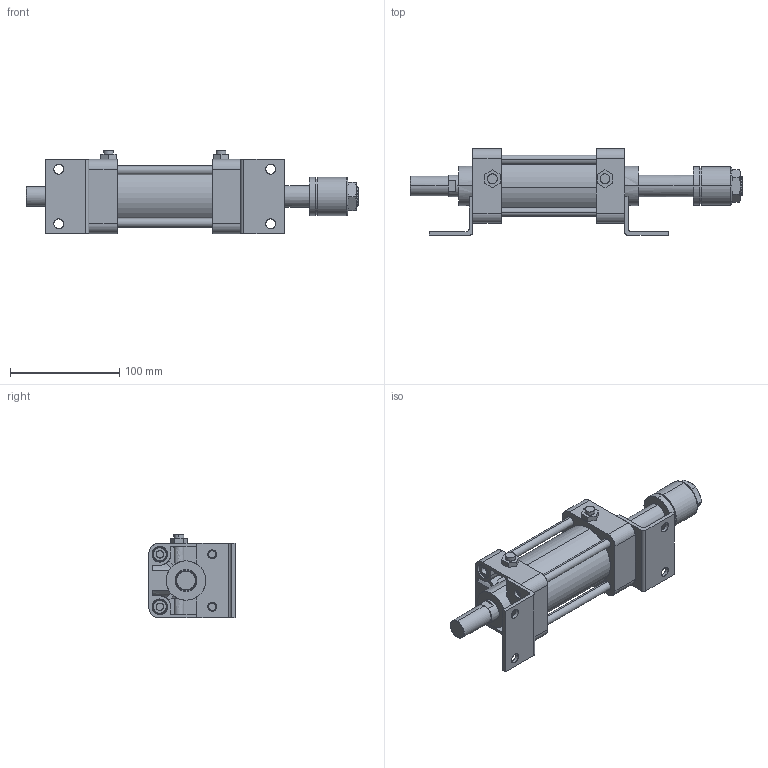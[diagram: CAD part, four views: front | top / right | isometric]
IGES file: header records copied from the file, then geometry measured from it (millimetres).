
Start section: SolidWorks IGES file using analytic representation for surfaces
Global section: file name: C:\Users\Toshiba\Desktop\KGA7-50#-50-L.IGS; native system: SolidWorks 2014; preprocessor: SolidWorks 2014; author: Toshiba; date: 160414.154952; units: millimetre
Bounding box: 304 x 79 x 76.3 mm (x, y, z)
Surface area: 135356.3 mm2 (no closed solid volume)
Topology: 0 solids, 0 shells, 419 faces, 6897 edges, 6893 vertices
Faces by surface type: bspline 227, revolution 192
